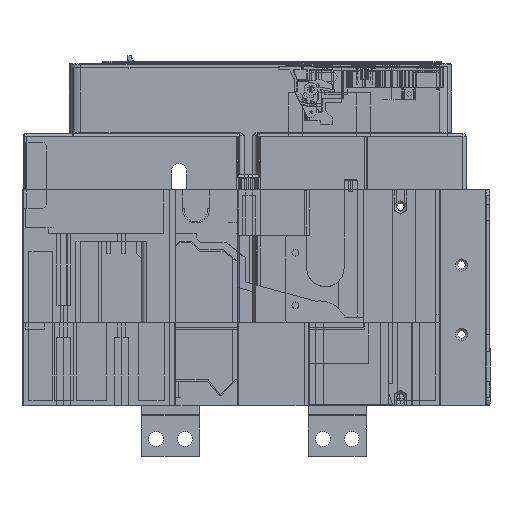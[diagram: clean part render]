
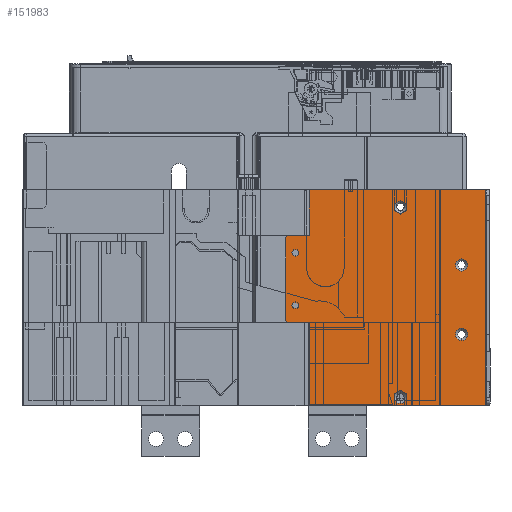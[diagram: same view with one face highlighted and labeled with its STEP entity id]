
A CAD part, left-side view. The second image highlights one B-rep face of the part: STEP entity #151983.
In plain terms, the highlighted planar face has unit normal (-1, 0, 0) as drawn and (1, 0, 0) by its records, which use the part's own axes.
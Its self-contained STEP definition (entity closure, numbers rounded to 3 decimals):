
#150921=DIRECTION('',(0.,1.,0.));
#150922=VECTOR('',#150921,155.);
#150923=CARTESIAN_POINT('',(3.2,3.7,-93.4));
#150924=LINE('',#150923,#150922);
#151041=DIRECTION('',(0.,1.,0.));
#151042=VECTOR('',#151041,155.);
#151043=CARTESIAN_POINT('',(3.2,3.7,93.4));
#151044=LINE('',#151043,#151042);
#151045=CARTESIAN_POINT('',(3.2,158.7,91.4));
#151046=DIRECTION('',(-1.,0.,0.));
#151047=DIRECTION('',(0.,0.,1.));
#151048=AXIS2_PLACEMENT_3D('',#151045,#151046,#151047);
#151050=DIRECTION('',(0.,0.,-1.));
#151051=VECTOR('',#151050,69.8);
#151052=CARTESIAN_POINT('',(3.2,160.7,91.4));
#151053=LINE('',#151052,#151051);
#151054=CARTESIAN_POINT('',(3.2,174.4,19.6));
#151055=DIRECTION('',(-1.,0.,0.));
#151056=DIRECTION('',(0.,0.,1.));
#151057=AXIS2_PLACEMENT_3D('',#151054,#151055,#151056);
#151059=CARTESIAN_POINT('',(3.2,174.4,-51.8));
#151060=DIRECTION('',(-1.,0.,0.));
#151061=DIRECTION('',(0.,1.,0.));
#151062=AXIS2_PLACEMENT_3D('',#151059,#151060,#151061);
#151064=DIRECTION('',(0.,-1.,0.));
#151065=VECTOR('',#151064,13.7);
#151066=CARTESIAN_POINT('',(3.2,174.4,-53.8));
#151067=LINE('',#151066,#151065);
#151068=CARTESIAN_POINT('',(3.2,158.7,-91.4));
#151069=DIRECTION('',(-1.,0.,0.));
#151070=DIRECTION('',(0.,1.,0.));
#151071=AXIS2_PLACEMENT_3D('',#151068,#151069,#151070);
#151073=CARTESIAN_POINT('',(3.2,168.2,6.6));
#151074=DIRECTION('',(1.,0.,0.));
#151075=DIRECTION('',(0.,0.,-1.));
#151076=AXIS2_PLACEMENT_3D('',#151073,#151074,#151075);
#151078=CARTESIAN_POINT('',(3.2,168.2,6.6));
#151079=DIRECTION('',(1.,0.,0.));
#151080=DIRECTION('',(0.,0.,1.));
#151081=AXIS2_PLACEMENT_3D('',#151078,#151079,#151080);
#151083=CARTESIAN_POINT('',(3.2,168.2,-38.8));
#151084=DIRECTION('',(1.,0.,0.));
#151085=DIRECTION('',(0.,0.,-1.));
#151086=AXIS2_PLACEMENT_3D('',#151083,#151084,#151085);
#151088=CARTESIAN_POINT('',(3.2,168.2,-38.8));
#151089=DIRECTION('',(1.,0.,0.));
#151090=DIRECTION('',(0.,0.,1.));
#151091=AXIS2_PLACEMENT_3D('',#151088,#151089,#151090);
#151093=CARTESIAN_POINT('',(3.2,77.4,-78.4));
#151094=DIRECTION('',(1.,0.,0.));
#151095=DIRECTION('',(0.,0.,-1.));
#151096=AXIS2_PLACEMENT_3D('',#151093,#151094,#151095);
#151098=CARTESIAN_POINT('',(3.2,77.4,-78.4));
#151099=DIRECTION('',(1.,0.,0.));
#151100=DIRECTION('',(0.,0.,1.));
#151101=AXIS2_PLACEMENT_3D('',#151098,#151099,#151100);
#151103=CARTESIAN_POINT('',(3.2,77.4,86.));
#151104=DIRECTION('',(1.,0.,0.));
#151105=DIRECTION('',(0.,0.,1.));
#151106=AXIS2_PLACEMENT_3D('',#151103,#151104,#151105);
#151108=CARTESIAN_POINT('',(3.2,77.4,86.));
#151109=DIRECTION('',(1.,0.,0.));
#151110=DIRECTION('',(0.,0.,-1.));
#151111=AXIS2_PLACEMENT_3D('',#151108,#151109,#151110);
#151113=CARTESIAN_POINT('',(3.2,24.5,31.6));
#151114=DIRECTION('',(1.,0.,0.));
#151115=DIRECTION('',(0.,0.,1.));
#151116=AXIS2_PLACEMENT_3D('',#151113,#151114,#151115);
#151118=CARTESIAN_POINT('',(3.2,24.5,31.6));
#151119=DIRECTION('',(1.,0.,0.));
#151120=DIRECTION('',(0.,0.,-1.));
#151121=AXIS2_PLACEMENT_3D('',#151118,#151119,#151120);
#151123=CARTESIAN_POINT('',(3.2,24.5,-28.4));
#151124=DIRECTION('',(1.,0.,0.));
#151125=DIRECTION('',(0.,0.,1.));
#151126=AXIS2_PLACEMENT_3D('',#151123,#151124,#151125);
#151128=CARTESIAN_POINT('',(3.2,24.5,-28.4));
#151129=DIRECTION('',(1.,0.,0.));
#151130=DIRECTION('',(0.,0.,-1.));
#151131=AXIS2_PLACEMENT_3D('',#151128,#151129,#151130);
#151133=DIRECTION('',(0.,0.,-1.));
#151134=VECTOR('',#151133,186.8);
#151135=CARTESIAN_POINT('',(3.2,3.7,93.4));
#151136=LINE('',#151135,#151134);
#151347=DIRECTION('',(0.,-1.,0.));
#151348=VECTOR('',#151347,13.7);
#151349=CARTESIAN_POINT('',(3.2,174.4,21.6));
#151350=LINE('',#151349,#151348);
#151363=DIRECTION('',(0.,0.,1.));
#151364=VECTOR('',#151363,71.4);
#151365=CARTESIAN_POINT('',(3.2,176.4,-51.8));
#151366=LINE('',#151365,#151364);
#151379=DIRECTION('',(0.,0.,1.));
#151380=VECTOR('',#151379,37.6);
#151381=CARTESIAN_POINT('',(3.2,160.7,-91.4));
#151382=LINE('',#151381,#151380);
#151601=CARTESIAN_POINT('',(3.2,3.7,-93.4));
#151602=VERTEX_POINT('',#151601);
#151603=CARTESIAN_POINT('',(3.2,158.7,-93.4));
#151604=VERTEX_POINT('',#151603);
#151653=CARTESIAN_POINT('',(3.2,160.7,-91.4));
#151654=VERTEX_POINT('',#151653);
#151655=CARTESIAN_POINT('',(3.2,3.7,93.4));
#151656=VERTEX_POINT('',#151655);
#151657=CARTESIAN_POINT('',(3.2,158.7,93.4));
#151658=VERTEX_POINT('',#151657);
#151659=CARTESIAN_POINT('',(3.2,160.7,91.4));
#151660=VERTEX_POINT('',#151659);
#151661=CARTESIAN_POINT('',(3.2,160.7,21.6));
#151662=VERTEX_POINT('',#151661);
#151663=CARTESIAN_POINT('',(3.2,174.4,21.6));
#151664=VERTEX_POINT('',#151663);
#151665=CARTESIAN_POINT('',(3.2,176.4,19.6));
#151666=VERTEX_POINT('',#151665);
#151667=CARTESIAN_POINT('',(3.2,176.4,-51.8));
#151668=VERTEX_POINT('',#151667);
#151669=CARTESIAN_POINT('',(3.2,174.4,-53.8));
#151670=VERTEX_POINT('',#151669);
#151671=CARTESIAN_POINT('',(3.2,160.7,-53.8));
#151672=VERTEX_POINT('',#151671);
#151673=CARTESIAN_POINT('',(3.2,168.2,4.));
#151674=CARTESIAN_POINT('',(3.2,168.2,9.2));
#151675=VERTEX_POINT('',#151673);
#151676=VERTEX_POINT('',#151674);
#151677=CARTESIAN_POINT('',(3.2,168.2,-41.4));
#151678=CARTESIAN_POINT('',(3.2,168.2,-36.2));
#151679=VERTEX_POINT('',#151677);
#151680=VERTEX_POINT('',#151678);
#151681=CARTESIAN_POINT('',(3.2,77.4,-83.65));
#151682=CARTESIAN_POINT('',(3.2,77.4,-73.15));
#151683=VERTEX_POINT('',#151681);
#151684=VERTEX_POINT('',#151682);
#151685=CARTESIAN_POINT('',(3.2,77.4,91.25));
#151686=CARTESIAN_POINT('',(3.2,77.4,80.75));
#151687=VERTEX_POINT('',#151685);
#151688=VERTEX_POINT('',#151686);
#151689=CARTESIAN_POINT('',(3.2,24.5,36.85));
#151690=CARTESIAN_POINT('',(3.2,24.5,26.35));
#151691=VERTEX_POINT('',#151689);
#151692=VERTEX_POINT('',#151690);
#151693=CARTESIAN_POINT('',(3.2,24.5,-23.15));
#151694=CARTESIAN_POINT('',(3.2,24.5,-33.65));
#151695=VERTEX_POINT('',#151693);
#151696=VERTEX_POINT('',#151694);
#151918=CARTESIAN_POINT('',(3.2,3.2,-93.4));
#151919=DIRECTION('',(1.,0.,0.));
#151920=DIRECTION('',(0.,1.,0.));
#151921=AXIS2_PLACEMENT_3D('',#151918,#151919,#151920);
#151922=PLANE('',#151921);
#151924=ORIENTED_EDGE('',*,*,#151923,.F.);
#151926=ORIENTED_EDGE('',*,*,#151925,.T.);
#151928=ORIENTED_EDGE('',*,*,#151927,.T.);
#151930=ORIENTED_EDGE('',*,*,#151929,.T.);
#151932=ORIENTED_EDGE('',*,*,#151931,.F.);
#151934=ORIENTED_EDGE('',*,*,#151933,.T.);
#151936=ORIENTED_EDGE('',*,*,#151935,.F.);
#151938=ORIENTED_EDGE('',*,*,#151937,.T.);
#151940=ORIENTED_EDGE('',*,*,#151939,.T.);
#151942=ORIENTED_EDGE('',*,*,#151941,.F.);
#151943=ORIENTED_EDGE('',*,*,#151909,.T.);
#151944=ORIENTED_EDGE('',*,*,#151814,.F.);
#151945=EDGE_LOOP('',(#151924,#151926,#151928,#151930,#151932,#151934,#151936,
#151938,#151940,#151942,#151943,#151944));
#151946=FACE_OUTER_BOUND('',#151945,.F.);
#151948=ORIENTED_EDGE('',*,*,#151947,.T.);
#151950=ORIENTED_EDGE('',*,*,#151949,.T.);
#151951=EDGE_LOOP('',(#151948,#151950));
#151952=FACE_BOUND('',#151951,.F.);
#151954=ORIENTED_EDGE('',*,*,#151953,.T.);
#151956=ORIENTED_EDGE('',*,*,#151955,.T.);
#151957=EDGE_LOOP('',(#151954,#151956));
#151958=FACE_BOUND('',#151957,.F.);
#151960=ORIENTED_EDGE('',*,*,#151959,.T.);
#151962=ORIENTED_EDGE('',*,*,#151961,.T.);
#151963=EDGE_LOOP('',(#151960,#151962));
#151964=FACE_BOUND('',#151963,.F.);
#151966=ORIENTED_EDGE('',*,*,#151965,.T.);
#151968=ORIENTED_EDGE('',*,*,#151967,.T.);
#151969=EDGE_LOOP('',(#151966,#151968));
#151970=FACE_BOUND('',#151969,.F.);
#151972=ORIENTED_EDGE('',*,*,#151971,.T.);
#151974=ORIENTED_EDGE('',*,*,#151973,.T.);
#151975=EDGE_LOOP('',(#151972,#151974));
#151976=FACE_BOUND('',#151975,.F.);
#151978=ORIENTED_EDGE('',*,*,#151977,.T.);
#151980=ORIENTED_EDGE('',*,*,#151979,.T.);
#151981=EDGE_LOOP('',(#151978,#151980));
#151982=FACE_BOUND('',#151981,.F.);
#151983=ADVANCED_FACE('',(#151946,#151952,#151958,#151964,#151970,#151976,
#151982),#151922,.T.);
#151049=CIRCLE('',#151048,2.);
#151058=CIRCLE('',#151057,2.);
#151063=CIRCLE('',#151062,2.);
#151072=CIRCLE('',#151071,2.);
#151077=CIRCLE('',#151076,2.6);
#151082=CIRCLE('',#151081,2.6);
#151087=CIRCLE('',#151086,2.6);
#151092=CIRCLE('',#151091,2.6);
#151097=CIRCLE('',#151096,5.25);
#151102=CIRCLE('',#151101,5.25);
#151107=CIRCLE('',#151106,5.25);
#151112=CIRCLE('',#151111,5.25);
#151117=CIRCLE('',#151116,5.25);
#151122=CIRCLE('',#151121,5.25);
#151127=CIRCLE('',#151126,5.25);
#151132=CIRCLE('',#151131,5.25);
#151814=EDGE_CURVE('',#151602,#151604,#150924,.T.);
#151909=EDGE_CURVE('',#151654,#151604,#151072,.T.);
#151923=EDGE_CURVE('',#151656,#151602,#151136,.T.);
#151925=EDGE_CURVE('',#151656,#151658,#151044,.T.);
#151927=EDGE_CURVE('',#151658,#151660,#151049,.T.);
#151929=EDGE_CURVE('',#151660,#151662,#151053,.T.);
#151931=EDGE_CURVE('',#151664,#151662,#151350,.T.);
#151933=EDGE_CURVE('',#151664,#151666,#151058,.T.);
#151935=EDGE_CURVE('',#151668,#151666,#151366,.T.);
#151937=EDGE_CURVE('',#151668,#151670,#151063,.T.);
#151939=EDGE_CURVE('',#151670,#151672,#151067,.T.);
#151941=EDGE_CURVE('',#151654,#151672,#151382,.T.);
#151947=EDGE_CURVE('',#151675,#151676,#151077,.T.);
#151949=EDGE_CURVE('',#151676,#151675,#151082,.T.);
#151953=EDGE_CURVE('',#151679,#151680,#151087,.T.);
#151955=EDGE_CURVE('',#151680,#151679,#151092,.T.);
#151959=EDGE_CURVE('',#151683,#151684,#151097,.T.);
#151961=EDGE_CURVE('',#151684,#151683,#151102,.T.);
#151965=EDGE_CURVE('',#151687,#151688,#151107,.T.);
#151967=EDGE_CURVE('',#151688,#151687,#151112,.T.);
#151971=EDGE_CURVE('',#151691,#151692,#151117,.T.);
#151973=EDGE_CURVE('',#151692,#151691,#151122,.T.);
#151977=EDGE_CURVE('',#151695,#151696,#151127,.T.);
#151979=EDGE_CURVE('',#151696,#151695,#151132,.T.);
